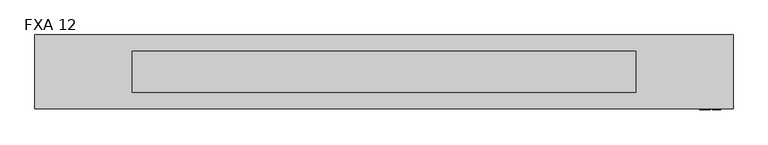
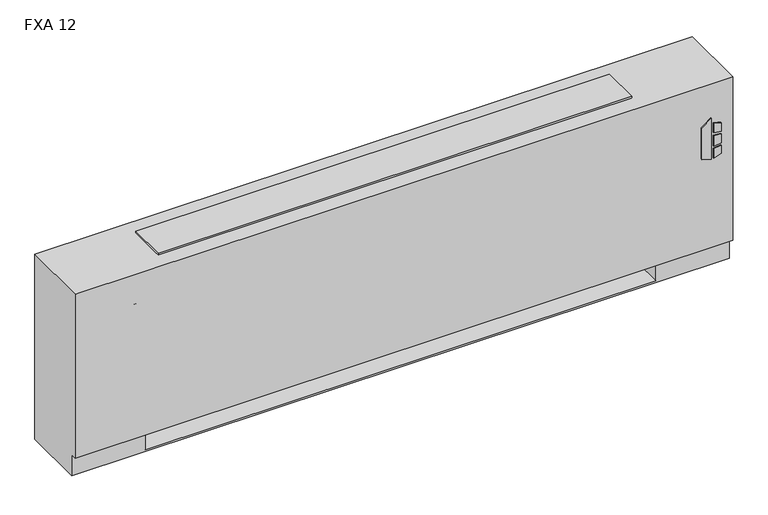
"""IFC4 building model written with IfcOpenShell, lengths in millimetres: proxy geometry, Vertical_Fan_Coil_Unit_-_FXA_-_IEC_-_2-Pipe_TS-FR_LH_2022 : FXA 12."""

from ifc_helpers import new_model, si_unit, point, frame, frame_2d, origin, place, context, project, spatial, polyline, circle_curve, trimmed, segment, composite_curve, outline, extrude, source, transform, mapped, element, save
from ifc_brep_helpers import plane_surface, revolved_surface, advanced_brep


def fxa_12_9a9a52d2(model_context):
    return source(origin(), model_context, "Body", "SolidModel", [
        extrude(outline(polyline([(391.6086829, 1128.7868862), (381.6606126, 1160.9602728), (523.831537, 1160.9602728), (500.8095309, 1128.7868862), (391.6086829, 1128.7868862)])), frame((0.0, 12.7, 0.0), z_axis=(0.0, 1.0, 0.0), x_axis=(0.0, 0.0, 1.0)), (0.0, 0.0, 1.0), 3.175),
        extrude(outline(polyline([(470.6079683, 1167.7186058), (467.4055757, 1193.8), (496.6344168, 1193.8), (504.6988318, 1167.7186058), (470.6079683, 1167.7186058)])), frame((0.0, 12.7, 0.0), z_axis=(0.0, 1.0, 0.0), x_axis=(0.0, 0.0, 1.0)), (0.0, 0.0, 1.0), 3.175),
        extrude(outline(polyline([(418.7444414, 1193.8), (415.0789404, 1167.7186058), (381.6606126, 1167.7186058), (390.2948498, 1193.8), (418.7444414, 1193.8)])), frame((0.0, 12.7, 0.0), z_axis=(0.0, 1.0, 0.0), x_axis=(0.0, 0.0, 1.0)), (0.0, 0.0, 1.0), 3.175),
        extrude(outline(polyline([(458.0596028, 1193.8), (460.3414292, 1167.7186058), (424.4038806, 1167.7186058), (427.1451456, 1193.8), (458.0596028, 1193.8)])), frame((0.0, 12.7, 0.0), z_axis=(0.0, 1.0, 0.0), x_axis=(0.0, 0.0, 1.0)), (0.0, 0.0, 1.0), 3.175),
        extrude(outline(polyline([(1111.25, 223.266), (1111.25, 81.534), (990.6, 81.534), (990.6, 223.266), (1111.25, 223.266)])), frame((0.0, 0.0, 327.025), z_axis=(0.0, 0.0, 1.0), x_axis=(1.0, 0.0, 0.0)), (0.0, 0.0, 1.0), 260.35),
        extrude(outline(composite_curve([segment(trimmed(circle_curve(frame_2d((-749.3, 130.175)), 9.525), [point((-758.825, 130.175))], [point((-739.775, 130.175))], False, "CARTESIAN"), True, "CONTINUOUS"), segment(trimmed(circle_curve(frame_2d((-749.3, 130.175)), 9.525), [point((-739.775, 130.175))], [point((-758.825, 130.175))], False, "CARTESIAN"), True, "CONTINUOUS")], self_intersect=False)), frame((0.0, 0.0, 101.6), z_axis=(0.0, 0.0, 1.0), x_axis=(1.0, 0.0, 0.0)), (0.0, 0.0, 1.0), 25.4),
        extrude(outline(polyline([(-844.55, 63.5), (-844.55, 196.85), (-685.8, 196.85), (-685.8, 63.5), (-844.55, 63.5)])), frame((0.0, 0.0, 127.0), z_axis=(0.0, 0.0, 1.0), x_axis=(1.0, 0.0, 0.0)), (0.0, 0.0, 1.0), 50.8),
        extrude(outline(composite_curve([segment(trimmed(circle_curve(frame_2d((93.1926, 485.5972)), 7.9375), [point((93.1926, 493.5347))], [point((93.1926, 477.6597))], False, "CARTESIAN"), True, "CONTINUOUS"), segment(trimmed(circle_curve(frame_2d((93.1926, 485.5972)), 7.9375), [point((93.1926, 477.6597))], [point((93.1926, 493.5347))], False, "CARTESIAN"), True, "CONTINUOUS")], self_intersect=False)), frame((-736.6, 0.0, 0.0), z_axis=(1.0, 0.0, 0.0), x_axis=(0.0, 1.0, 0.0)), (0.0, 0.0, 1.0), 50.8),
        extrude(outline(composite_curve([segment(trimmed(circle_curve(frame_2d((141.3002, 458.9526)), 7.9375), [point((141.3002, 466.8901))], [point((141.3002, 451.0151))], False, "CARTESIAN"), True, "CONTINUOUS"), segment(trimmed(circle_curve(frame_2d((141.3002, 458.9526)), 7.9375), [point((141.3002, 451.0151))], [point((141.3002, 466.8901))], False, "CARTESIAN"), True, "CONTINUOUS")], self_intersect=False)), frame((-736.6, 0.0, 0.0), z_axis=(1.0, 0.0, 0.0), x_axis=(0.0, 1.0, 0.0)), (0.0, 0.0, 1.0), 50.8),
        advanced_brep(
        [(1231.9, 244.475, 641.35), (-927.1, 244.475, 641.35), (-927.1, 15.875, 641.35), (1231.9, 15.875, 641.35), (-927.1, 244.475, 0.0), (1231.9, 244.475, 0.0), (1231.9, 34.925, 0.0), (-927.1, 34.925, 0.0), (990.6, 244.475, 73.025), (1219.2, 244.475, 73.025), (1219.2, 244.475, 628.65), (990.6, 244.475, 628.65), (990.6, 244.475, 414.8650565), (1019.175, 244.475, 414.8650565), (1019.175, 244.475, 385.2349435), (990.6, 244.475, 385.2349435), (990.6, 244.475, 287.3375), (1019.175, 244.475, 287.3375), (1019.175, 244.475, 258.7625), (990.6, 244.475, 258.7625), (990.6, 244.475, 141.2875), (1019.175, 244.475, 141.2875), (1019.175, 244.475, 112.7125), (990.6, 244.475, 112.7125), (-685.8, 244.475, 628.65), (-914.4, 244.475, 628.65), (-914.4, 244.475, 73.025), (-685.8, 244.475, 73.025), (-685.8, 244.475, 112.7125), (-714.375, 244.475, 112.7125), (-714.375, 244.475, 141.2875), (-685.8, 244.475, 141.2875), (-685.8, 244.475, 258.7625), (-714.375, 244.475, 258.7625), (-714.375, 244.475, 287.3375), (-685.8, 244.475, 287.3375), (-685.8, 244.475, 385.2349435), (-714.375, 244.475, 385.2349435), (-714.375, 244.475, 414.8650565), (-685.8, 244.475, 414.8650565), (1008.8626, 244.475, 127.0), (997.7374, 244.475, 127.0), (1008.8626, 244.475, 400.05), (997.7374, 244.475, 400.05), (1008.8626, 244.475, 273.05), (997.7374, 244.475, 273.05), (-692.9374, 244.475, 127.0), (-704.0626, 244.475, 127.0), (-692.9374, 244.475, 273.05), (-704.0626, 244.475, 273.05), (-692.9374, 244.475, 400.05), (-704.0626, 244.475, 400.05), (-927.1, 34.925, 73.025), (-927.1, 15.875, 73.025), (1231.9, 15.875, 73.025), (1231.9, 34.925, 73.025), (-685.8, 34.925, 73.025), (-685.8, 219.075, 73.025), (990.6, 219.075, 73.025), (990.6, 34.925, 73.025), (990.6, 34.925, 6.35), (-685.8, 34.925, 6.35), (990.6, 41.275, 628.65), (1219.2, 41.275, 628.65), (1219.2, 41.275, 73.025), (990.6, 41.275, 73.025), (-685.8, 41.275, 628.65), (-685.8, 41.275, 73.025), (-914.4, 41.275, 73.025), (-914.4, 41.275, 628.65), (990.6, 219.075, 73.025), (990.6, 238.125, 112.7125), (990.6, 238.125, 141.2875), (990.6, 238.125, 258.7625), (990.6, 238.125, 287.3375), (990.6, 238.125, 385.2349435), (990.6, 238.125, 414.8650565), (-685.8, 219.075, 73.025), (-685.8, 238.125, 414.8650565), (-685.8, 238.125, 385.2349435), (-685.8, 238.125, 287.3375), (-685.8, 238.125, 258.7625), (-685.8, 238.125, 141.2875), (-685.8, 238.125, 112.7125), (-685.8, 219.075, 6.35), (990.6, 219.075, 6.35), (1019.175, 238.125, 112.7125), (1019.175, 238.125, 141.2875), (997.7374, 238.125, 127.0), (1008.8626, 238.125, 127.0), (1019.175, 238.125, 258.7625), (1019.175, 238.125, 287.3375), (997.7374, 238.125, 273.05), (1008.8626, 238.125, 273.05), (1019.175, 238.125, 385.2349435), (1019.175, 238.125, 414.8650565), (997.7374, 238.125, 400.05), (1008.8626, 238.125, 400.05), (-714.375, 238.125, 141.2875), (-714.375, 238.125, 112.7125), (-704.0626, 238.125, 127.0), (-692.9374, 238.125, 127.0), (-714.375, 238.125, 287.3375), (-714.375, 238.125, 258.7625), (-704.0626, 238.125, 273.05), (-692.9374, 238.125, 273.05), (-714.375, 238.125, 414.8650565), (-714.375, 238.125, 385.2349435), (-704.0626, 238.125, 400.05), (-692.9374, 238.125, 400.05)],
        [
            (0, 1),
            (1, 2),
            (2, 3),
            (3, 0),
            (4, 5),
            (5, 6),
            (6, 7),
            (7, 4),
            (0, 5),
            (4, 1),
            (8, 9),
            (9, 10),
            (10, 11),
            (11, 12),
            (12, 13),
            (13, 14),
            (14, 15),
            (15, 16),
            (16, 17),
            (17, 18),
            (18, 19),
            (19, 20),
            (20, 21),
            (21, 22),
            (22, 23),
            (23, 8),
            (24, 25),
            (25, 26),
            (26, 27),
            (27, 28),
            (28, 29),
            (29, 30),
            (30, 31),
            (31, 32),
            (32, 33),
            (33, 34),
            (34, 35),
            (35, 36),
            (36, 37),
            (37, 38),
            (38, 39),
            (39, 24),
            (40, 41, circle_curve(frame((1003.3, 244.475, 127.0), z_axis=(0.0, -1.0, 0.0), x_axis=(-1.0, 0.0, 0.0)), 5.5626)),
            (41, 40, circle_curve(frame((1003.3, 244.475, 127.0), z_axis=(0.0, -1.0, 0.0), x_axis=(-1.0, 0.0, 0.0)), 5.5626)),
            (42, 43, circle_curve(frame((1003.3, 244.475, 400.05), z_axis=(0.0, -1.0, 0.0), x_axis=(-1.0, 0.0, 0.0)), 5.5626)),
            (43, 42, circle_curve(frame((1003.3, 244.475, 400.05), z_axis=(0.0, -1.0, 0.0), x_axis=(-1.0, 0.0, 0.0)), 5.5626)),
            (44, 45, circle_curve(frame((1003.3, 244.475, 273.05), z_axis=(0.0, -1.0, 0.0), x_axis=(-1.0, 0.0, 0.0)), 5.5626)),
            (45, 44, circle_curve(frame((1003.3, 244.475, 273.05), z_axis=(0.0, -1.0, 0.0), x_axis=(-1.0, 0.0, 0.0)), 5.5626)),
            (46, 47, circle_curve(frame((-698.5, 244.475, 127.0), z_axis=(0.0, -1.0, 0.0), x_axis=(-1.0, 0.0, 0.0)), 5.5626)),
            (47, 46, circle_curve(frame((-698.5, 244.475, 127.0), z_axis=(0.0, -1.0, 0.0), x_axis=(-1.0, 0.0, 0.0)), 5.5626)),
            (48, 49, circle_curve(frame((-698.5, 244.475, 273.05), z_axis=(0.0, -1.0, 0.0), x_axis=(-1.0, 0.0, 0.0)), 5.5626)),
            (49, 48, circle_curve(frame((-698.5, 244.475, 273.05), z_axis=(0.0, -1.0, 0.0), x_axis=(-1.0, 0.0, 0.0)), 5.5626)),
            (50, 51, circle_curve(frame((-698.5, 244.475, 400.05), z_axis=(0.0, -1.0, 0.0), x_axis=(-1.0, 0.0, 0.0)), 5.5626)),
            (51, 50, circle_curve(frame((-698.5, 244.475, 400.05), z_axis=(0.0, -1.0, 0.0), x_axis=(-1.0, 0.0, 0.0)), 5.5626)),
            (7, 52),
            (52, 53),
            (53, 2),
            (53, 54),
            (54, 3),
            (54, 55),
            (55, 6),
            (52, 56),
            (56, 57),
            (57, 58),
            (58, 59),
            (59, 55),
            (59, 60),
            (60, 61),
            (61, 56),
            (62, 63),
            (63, 64),
            (64, 65),
            (65, 62),
            (66, 67),
            (67, 68),
            (68, 69),
            (69, 66),
            (65, 70),
            (70, 8),
            (23, 71),
            (71, 72),
            (72, 20),
            (19, 73),
            (73, 74),
            (74, 16),
            (15, 75),
            (75, 76),
            (76, 12),
            (11, 62),
            (64, 9),
            (63, 10),
            (69, 25),
            (24, 66),
            (68, 26),
            (67, 77),
            (77, 27),
            (39, 78),
            (78, 79),
            (79, 36),
            (35, 80),
            (80, 81),
            (81, 32),
            (31, 82),
            (82, 83),
            (83, 28),
            (57, 84),
            (84, 85),
            (85, 58),
            (85, 60),
            (84, 61),
            (71, 86),
            (86, 87),
            (87, 72),
            (88, 89, circle_curve(frame((1003.3, 238.125, 127.0), z_axis=(0.0, 1.0, 0.0), x_axis=(-1.0, 0.0, 0.0)), 5.5626)),
            (89, 88, circle_curve(frame((1003.3, 238.125, 127.0), z_axis=(0.0, 1.0, 0.0), x_axis=(-1.0, 0.0, 0.0)), 5.5626)),
            (73, 90),
            (90, 91),
            (91, 74),
            (92, 93, circle_curve(frame((1003.3, 238.125, 273.05), z_axis=(0.0, 1.0, 0.0), x_axis=(-1.0, 0.0, 0.0)), 5.5626)),
            (93, 92, circle_curve(frame((1003.3, 238.125, 273.05), z_axis=(0.0, 1.0, 0.0), x_axis=(-1.0, 0.0, 0.0)), 5.5626)),
            (75, 94),
            (94, 95),
            (95, 76),
            (96, 97, circle_curve(frame((1003.3, 238.125, 400.05), z_axis=(0.0, 1.0, 0.0), x_axis=(-1.0, 0.0, 0.0)), 5.5626)),
            (97, 96, circle_curve(frame((1003.3, 238.125, 400.05), z_axis=(0.0, 1.0, 0.0), x_axis=(-1.0, 0.0, 0.0)), 5.5626)),
            (98, 99),
            (99, 83),
            (82, 98),
            (100, 101, circle_curve(frame((-698.5, 238.125, 127.0), z_axis=(0.0, 1.0, 0.0), x_axis=(-1.0, 0.0, 0.0)), 5.5626)),
            (101, 100, circle_curve(frame((-698.5, 238.125, 127.0), z_axis=(0.0, 1.0, 0.0), x_axis=(-1.0, 0.0, 0.0)), 5.5626)),
            (102, 103),
            (103, 81),
            (80, 102),
            (104, 105, circle_curve(frame((-698.5, 238.125, 273.05), z_axis=(0.0, 1.0, 0.0), x_axis=(-1.0, 0.0, 0.0)), 5.5626)),
            (105, 104, circle_curve(frame((-698.5, 238.125, 273.05), z_axis=(0.0, 1.0, 0.0), x_axis=(-1.0, 0.0, 0.0)), 5.5626)),
            (106, 107),
            (107, 79),
            (78, 106),
            (108, 109, circle_curve(frame((-698.5, 238.125, 400.05), z_axis=(0.0, 1.0, 0.0), x_axis=(-1.0, 0.0, 0.0)), 5.5626)),
            (109, 108, circle_curve(frame((-698.5, 238.125, 400.05), z_axis=(0.0, 1.0, 0.0), x_axis=(-1.0, 0.0, 0.0)), 5.5626)),
            (87, 21),
            (86, 22),
            (91, 17),
            (90, 18),
            (95, 13),
            (94, 14),
            (30, 98),
            (99, 29),
            (34, 102),
            (103, 33),
            (38, 106),
            (107, 37),
            (88, 41),
            (40, 89),
            (96, 43),
            (42, 97),
            (92, 45),
            (44, 93),
            (100, 47),
            (46, 101),
            (104, 49),
            (48, 105),
            (108, 51),
            (50, 109),
        ],
        [
            plane_surface(frame((-927.1, 244.475, 641.35), z_axis=(0.0, 0.0, 1.0), x_axis=(-1.0, 0.0, 0.0))),
            plane_surface(frame((-927.1, 244.475, 0.0), z_axis=(0.0, 0.0, -1.0), x_axis=(1.0, 0.0, 0.0))),
            plane_surface(frame((1231.9, 244.475, 641.35), z_axis=(0.0, 1.0, 0.0), x_axis=(0.0, 0.0, -1.0))),
            plane_surface(frame((-927.1, 244.475, 641.35), z_axis=(-1.0, 0.0, 0.0), x_axis=(0.0, 0.0, -1.0))),
            plane_surface(frame((-927.1, 15.875, 641.35), z_axis=(0.0, -1.0, 0.0), x_axis=(0.0, 0.0, -1.0))),
            plane_surface(frame((1231.9, 15.875, 641.35), z_axis=(1.0, 0.0, 0.0), x_axis=(0.0, 0.0, -1.0))),
            plane_surface(frame((-927.1, 15.875, 73.025), z_axis=(0.0, 0.0, -1.0), x_axis=(1.0, 0.0, 0.0))),
            plane_surface(frame((-927.1, 34.925, 73.025), z_axis=(0.0, -1.0, 0.0), x_axis=(1.0, 0.0, 0.0))),
            plane_surface(frame((990.6, 41.275, 628.65), z_axis=(0.0, 1.0, 0.0), x_axis=(0.0, 0.0, -1.0))),
            plane_surface(frame((990.6, 41.275, 628.65), z_axis=(1.0, 0.0, 0.0), x_axis=(0.0, 1.0, 0.0))),
            plane_surface(frame((990.6, 41.275, 73.025), z_axis=(0.0, 0.0, 1.0), x_axis=(0.0, 1.0, 0.0))),
            plane_surface(frame((1219.2, 41.275, 73.025), z_axis=(-1.0, 0.0, 0.0), x_axis=(0.0, 1.0, 0.0))),
            plane_surface(frame((1219.2, 41.275, 628.65), z_axis=(0.0, 0.0, -1.0), x_axis=(0.0, 1.0, 0.0))),
            plane_surface(frame((-685.8, 41.275, 628.65), z_axis=(0.0, 0.0, -1.0), x_axis=(0.0, 1.0, 0.0))),
            plane_surface(frame((-914.4, 41.275, 628.65), z_axis=(1.0, 0.0, 0.0), x_axis=(0.0, 1.0, 0.0))),
            plane_surface(frame((-914.4, 41.275, 73.025), z_axis=(0.0, 0.0, 1.0), x_axis=(0.0, 1.0, 0.0))),
            plane_surface(frame((-685.8, 41.275, 73.025), z_axis=(-1.0, 0.0, 0.0), x_axis=(0.0, 1.0, 0.0))),
            plane_surface(frame((990.6, 219.075, 73.025), z_axis=(0.0, -1.0, 0.0), x_axis=(0.0, 0.0, -1.0))),
            plane_surface(frame((990.6, 219.075, 73.025), z_axis=(-1.0, 0.0, 0.0), x_axis=(0.0, -1.0, 0.0))),
            plane_surface(frame((990.6, 219.075, 6.35), z_axis=(0.0, 0.0, 1.0), x_axis=(0.0, -1.0, 0.0))),
            plane_surface(frame((-685.8, 219.075, 6.35), z_axis=(1.0, 0.0, 0.0), x_axis=(0.0, -1.0, 0.0))),
            plane_surface(frame((1019.175, 238.125, 141.2875), z_axis=(0.0, -1.0, 0.0), x_axis=(-1.0, 0.0, 0.0))),
            plane_surface(frame((990.6, 244.475, 141.2875), z_axis=(0.0, 0.0, 1.0), x_axis=(0.0, -1.0, 0.0))),
            plane_surface(frame((1019.175, 244.475, 141.2875), z_axis=(1.0, 0.0, 0.0), x_axis=(0.0, -1.0, 0.0))),
            plane_surface(frame((1019.175, 244.475, 112.7125), z_axis=(0.0, 0.0, -1.0), x_axis=(0.0, -1.0, 0.0))),
            plane_surface(frame((990.6, 244.475, 287.3375), z_axis=(0.0, 0.0, 1.0), x_axis=(0.0, -1.0, 0.0))),
            plane_surface(frame((1019.175, 244.475, 287.3375), z_axis=(1.0, 0.0, 0.0), x_axis=(0.0, -1.0, 0.0))),
            plane_surface(frame((1019.175, 244.475, 258.7625), z_axis=(0.0, 0.0, -1.0), x_axis=(0.0, -1.0, 0.0))),
            plane_surface(frame((990.6, 244.475, 414.8650565), z_axis=(0.0, 0.0, 1.0), x_axis=(0.0, -1.0, 0.0))),
            plane_surface(frame((1019.175, 244.475, 414.8650565), z_axis=(1.0, 0.0, 0.0), x_axis=(0.0, -1.0, 0.0))),
            plane_surface(frame((1019.175, 244.475, 385.2349435), z_axis=(0.0, 0.0, -1.0), x_axis=(0.0, -1.0, 0.0))),
            plane_surface(frame((-714.375, 244.475, 141.2875), z_axis=(0.0, 0.0, 1.0), x_axis=(0.0, -1.0, 0.0))),
            plane_surface(frame((-685.8, 244.475, 112.7125), z_axis=(0.0, 0.0, -1.0), x_axis=(0.0, -1.0, 0.0))),
            plane_surface(frame((-714.375, 244.475, 112.7125), z_axis=(-1.0, 0.0, 0.0), x_axis=(0.0, -1.0, 0.0))),
            plane_surface(frame((-714.375, 244.475, 287.3375), z_axis=(0.0, 0.0, 1.0), x_axis=(0.0, -1.0, 0.0))),
            plane_surface(frame((-685.8, 244.475, 258.7625), z_axis=(0.0, 0.0, -1.0), x_axis=(0.0, -1.0, 0.0))),
            plane_surface(frame((-714.375, 244.475, 258.7625), z_axis=(-1.0, 0.0, 0.0), x_axis=(0.0, -1.0, 0.0))),
            plane_surface(frame((-714.375, 244.475, 414.8650565), z_axis=(0.0, 0.0, 1.0), x_axis=(0.0, -1.0, 0.0))),
            plane_surface(frame((-685.8, 244.475, 385.2349435), z_axis=(0.0, 0.0, -1.0), x_axis=(0.0, -1.0, 0.0))),
            plane_surface(frame((-714.375, 244.475, 385.2349435), z_axis=(-1.0, 0.0, 0.0), x_axis=(0.0, -1.0, 0.0))),
            revolved_surface(polyline([(997.7374, 238.125, 127.0), (997.7374, 244.475, 127.0)]), (1003.3, 244.475, 127.0), (0.0, -1.0, 0.0)),
            revolved_surface(polyline([(997.7374, 238.125, 400.05), (997.7374, 244.475, 400.05)]), (1003.3, 244.475, 400.05), (0.0, -1.0, 0.0)),
            revolved_surface(polyline([(997.7374, 238.125, 273.05), (997.7374, 244.475, 273.05)]), (1003.3, 244.475, 273.05), (0.0, -1.0, 0.0)),
            revolved_surface(polyline([(-704.0626, 238.125, 127.0), (-704.0626, 244.475, 127.0)]), (-698.5, 244.475, 127.0), (0.0, -1.0, 0.0)),
            revolved_surface(polyline([(-704.0626, 238.125, 273.05), (-704.0626, 244.475, 273.05)]), (-698.5, 244.475, 273.05), (0.0, -1.0, 0.0)),
            revolved_surface(polyline([(-704.0626, 238.125, 400.05), (-704.0626, 244.475, 400.05)]), (-698.5, 244.475, 400.05), (0.0, -1.0, 0.0)),
        ],
        [
            (0, [[1, 2, 3, 4]]),
            (1, [[5, 6, 7, 8]]),
            (2, [[-1, 9, -5, 10], [11, 12, 13, 14, 15, 16, 17, 18, 19, 20, 21, 22, 23, 24, 25, 26], [27, 28, 29, 30, 31, 32, 33, 34, 35, 36, 37, 38, 39, 40, 41, 42], [43, 44], [45, 46], [47, 48], [49, 50], [51, 52], [53, 54]]),
            (3, [[-2, -10, -8, 55, 56, 57]]),
            (4, [[-3, -57, 58, 59]]),
            (5, [[-4, -59, 60, 61, -6, -9]]),
            (6, [[-56, 62, 63, 64, 65, 66, -60, -58]]),
            (7, [[-7, -61, -66, 67, 68, 69, -62, -55]]),
            (8, [[70, 71, 72, 73]]),
            (8, [[74, 75, 76, 77]]),
            (9, [[-73, 78, 79, -26, 80, 81, 82, -22, 83, 84, 85, -18, 86, 87, 88, -14, 89]]),
            (10, [[-72, 90, -11, -79, -78]]),
            (11, [[-71, 91, -12, -90]]),
            (12, [[-70, -89, -13, -91]]),
            (13, [[-77, 92, -27, 93]]),
            (14, [[-76, 94, -28, -92]]),
            (15, [[-75, 95, 96, -29, -94]]),
            (16, [[-74, -93, -42, 97, 98, 99, -38, 100, 101, 102, -34, 103, 104, 105, -30, -96, -95]]),
            (17, [[-64, 106, 107, 108]]),
            (18, [[-108, 109, -67, -65]]),
            (19, [[-107, 110, -68, -109]]),
            (20, [[-106, -63, -69, -110]]),
            (21, [[111, 112, 113, -81], [114, 115]]),
            (21, [[116, 117, 118, -84], [119, 120]]),
            (21, [[121, 122, 123, -87], [124, 125]]),
            (21, [[126, 127, -104, 128], [129, 130]]),
            (21, [[131, 132, -101, 133], [134, 135]]),
            (21, [[136, 137, -98, 138], [139, 140]]),
            (22, [[-113, 141, -23, -82]]),
            (23, [[-112, 142, -24, -141]]),
            (24, [[-111, -80, -25, -142]]),
            (25, [[-118, 143, -19, -85]]),
            (26, [[-117, 144, -20, -143]]),
            (27, [[-116, -83, -21, -144]]),
            (28, [[-123, 145, -15, -88]]),
            (29, [[-122, 146, -16, -145]]),
            (30, [[-121, -86, -17, -146]]),
            (31, [[-128, -103, -33, 147]]),
            (32, [[-127, 148, -31, -105]]),
            (33, [[-126, -147, -32, -148]]),
            (34, [[-133, -100, -37, 149]]),
            (35, [[-132, 150, -35, -102]]),
            (36, [[-131, -149, -36, -150]]),
            (37, [[-138, -97, -41, 151]]),
            (38, [[-137, 152, -39, -99]]),
            (39, [[-136, -151, -40, -152]]),
            (40, [[153, -43, 154, -114]]),
            (40, [[-153, -115, -154, -44]]),
            (41, [[155, -45, 156, -124]]),
            (41, [[-155, -125, -156, -46]]),
            (42, [[157, -47, 158, -119]]),
            (42, [[-157, -120, -158, -48]]),
            (43, [[159, -49, 160, -129]]),
            (43, [[-159, -130, -160, -50]]),
            (44, [[161, -51, 162, -134]]),
            (44, [[-161, -135, -162, -52]]),
            (45, [[163, -53, 164, -139]]),
            (45, [[-163, -140, -164, -54]]),
        ],
    ),
        extrude(outline(polyline([(930.275, 193.675), (930.275, 66.675), (-625.475, 66.675), (-625.475, 193.675), (930.275, 193.675)])), frame((0.0, 0.0, 641.35), z_axis=(0.0, 0.0, 1.0), x_axis=(1.0, 0.0, 0.0)), (0.0, 0.0, 1.0), 6.35),
    ])


if __name__ == "__main__":
    model = new_model("IFC4")
    model_context = context("Model", 3, world=origin())
    ifc_project = project(units=[si_unit("LENGTHUNIT", "METRE", prefix="MILLI")], contexts=[model_context])
    site = spatial("IfcSite", under=ifc_project)
    building = spatial("IfcBuilding", under=site)
    placement = place(None, origin())
    fxa_12_shape = fxa_12_9a9a52d2(model_context)
    element("IfcBuildingElementProxy", 1, Name="Vertical_Fan_Coil_Unit_-_FXA_-_IEC_-_2-Pipe_TS-FR_LH_2022 : FXA 12", ObjectType="Vertical_Fan_Coil_Unit_-_FXA_-_IEC_-_2-Pipe_TS-FR_LH_2022 : FXA 12", at=placement, inside=building, context=model_context, shape_type="MappedRepresentation", body=[
        mapped(fxa_12_shape, transform((0.0, 0.0, 0.0), x_axis=(1.0, 0.0, 0.0), y_axis=(0.0, 1.0, 0.0), z_axis=(0.0, 0.0, 1.0))),
    ])
    save(model, "model.ifc")
